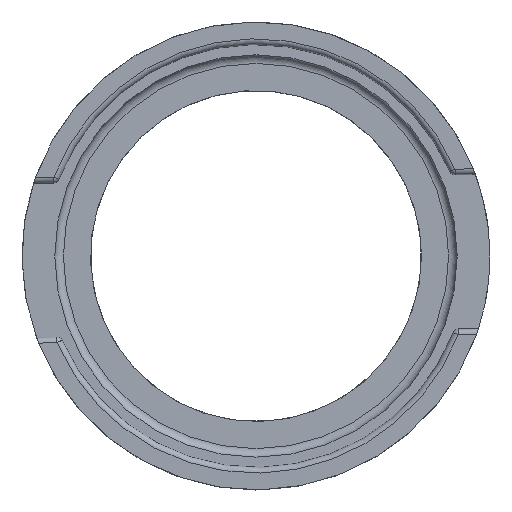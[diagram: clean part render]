
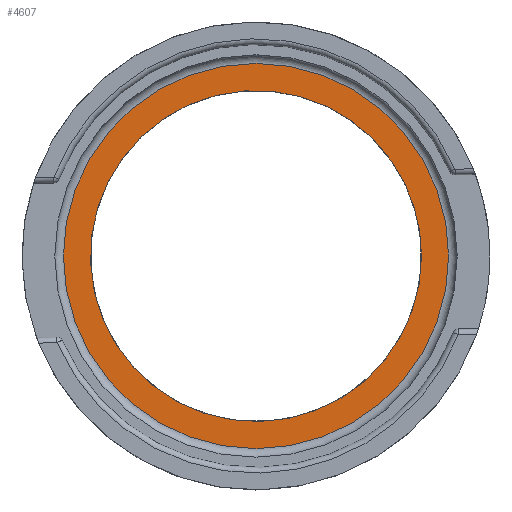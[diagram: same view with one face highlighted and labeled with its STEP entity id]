
A CAD part, top view. The second image highlights one B-rep face of the part: STEP entity #4607.
In plain terms, the highlighted planar face has unit normal (0, 0, 1).
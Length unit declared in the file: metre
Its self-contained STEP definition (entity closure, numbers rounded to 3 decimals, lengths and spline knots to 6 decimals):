
#640=CIRCLE('',#4986,0.03375);
#641=CIRCLE('',#4987,0.029);
#1527=ORIENTED_EDGE('',*,*,#2749,.T.);
#1528=ORIENTED_EDGE('',*,*,#2750,.T.);
#2749=EDGE_CURVE('',#3279,#3279,#640,.F.);
#2750=EDGE_CURVE('',#3280,#3280,#641,.T.);
#3279=VERTEX_POINT('',#11832);
#3280=VERTEX_POINT('',#11834);
#3847=EDGE_LOOP('',(#1527));
#3848=EDGE_LOOP('',(#1528));
#4160=FACE_BOUND('',#3847,.T.);
#4161=FACE_BOUND('',#3848,.T.);
#4358=PLANE('',#4985);
#4607=ADVANCED_FACE('',(#4160,#4161),#4358,.F.);
#4985=AXIS2_PLACEMENT_3D('',#11830,#5588,#5589);
#4986=AXIS2_PLACEMENT_3D('',#11831,#5590,#5591);
#4987=AXIS2_PLACEMENT_3D('',#11833,#5592,#5593);
#5588=DIRECTION('',(0.,0.,-1.));
#5589=DIRECTION('',(0.819,0.574,0.));
#5590=DIRECTION('',(0.,0.,-1.));
#5591=DIRECTION('',(1.,0.,0.));
#5592=DIRECTION('',(0.,0.,-1.));
#5593=DIRECTION('',(1.,0.,0.));
#11830=CARTESIAN_POINT('',(0.,0.,0.0738));
#11831=CARTESIAN_POINT('',(0.,0.,0.0738));
#11832=CARTESIAN_POINT('',(0.03375,0.,0.0738));
#11833=CARTESIAN_POINT('',(0.,0.,0.0738));
#11834=CARTESIAN_POINT('',(0.029,0.,0.0738));
